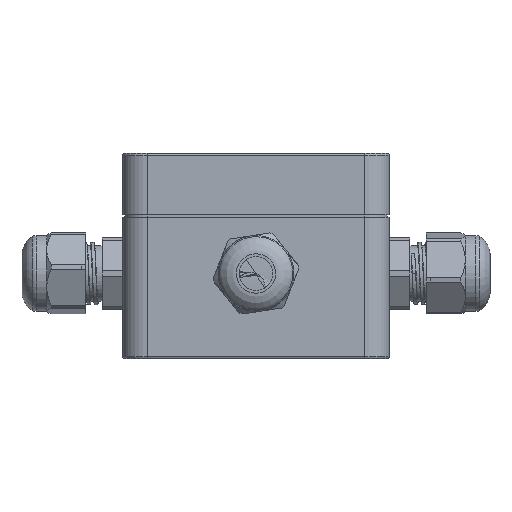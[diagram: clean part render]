
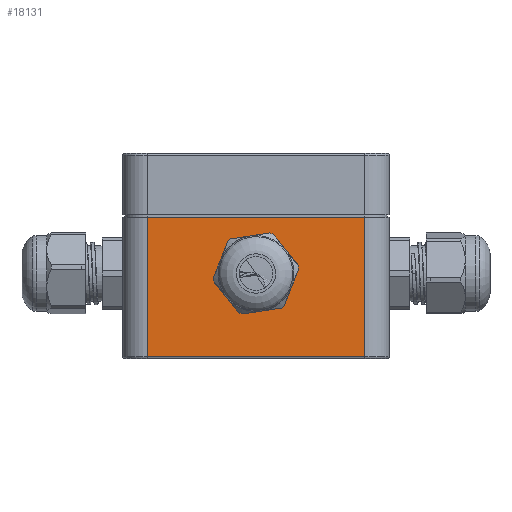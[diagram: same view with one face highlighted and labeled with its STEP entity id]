
A CAD part, left-side view. The second image highlights one B-rep face of the part: STEP entity #18131.
In plain terms, the highlighted planar face has unit normal (-1, 0, 0) by its records, which use the part's own axes.
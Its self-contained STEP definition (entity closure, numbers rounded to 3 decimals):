
#18131=ADVANCED_FACE('',(#43450,#43452),#43454,.T.);
#43450=FACE_BOUND('',#43451,.T.);
#43451=EDGE_LOOP('',(#138775,#138776,#138777,#138778));
#43452=FACE_BOUND('',#43453,.T.);
#43453=EDGE_LOOP('',(#138779,#138780,#138781,#138782,#138783,#138784,#138785,#138786,
#138787,#138788,#138789,#138790));
#43454=PLANE('',#43455);
#43455=AXIS2_PLACEMENT_3D('',#43456,#43457,#43458);
#43456=CARTESIAN_POINT('',(-57.5,32.5,0.));
#43457=DIRECTION('',(-1.,0.,0.));
#43458=DIRECTION('',(0.,-1.,0.));
#138775=ORIENTED_EDGE('',*,*,#179340,.T.);
#138776=ORIENTED_EDGE('',*,*,#180305,.T.);
#138777=ORIENTED_EDGE('',*,*,#180306,.T.);
#138778=ORIENTED_EDGE('',*,*,#180307,.F.);
#138779=ORIENTED_EDGE('',*,*,#180308,.F.);
#138780=ORIENTED_EDGE('',*,*,#180309,.F.);
#138781=ORIENTED_EDGE('',*,*,#180310,.F.);
#138782=ORIENTED_EDGE('',*,*,#180311,.F.);
#138783=ORIENTED_EDGE('',*,*,#180312,.F.);
#138784=ORIENTED_EDGE('',*,*,#180313,.F.);
#138785=ORIENTED_EDGE('',*,*,#180314,.F.);
#138786=ORIENTED_EDGE('',*,*,#180315,.F.);
#138787=ORIENTED_EDGE('',*,*,#180316,.F.);
#138788=ORIENTED_EDGE('',*,*,#180317,.F.);
#138789=ORIENTED_EDGE('',*,*,#180318,.F.);
#138790=ORIENTED_EDGE('',*,*,#180319,.F.);
#179340=EDGE_CURVE('',#192823,#192820,#192824,.T.);
#180305=EDGE_CURVE('',#192820,#194286,#194288,.T.);
#180306=EDGE_CURVE('',#194286,#194289,#194290,.T.);
#180307=EDGE_CURVE('',#192823,#194289,#194291,.T.);
#180308=EDGE_CURVE('',#194292,#194293,#194294,.F.);
#180309=EDGE_CURVE('',#194295,#194292,#194296,.F.);
#180310=EDGE_CURVE('',#194297,#194295,#194298,.F.);
#180311=EDGE_CURVE('',#194299,#194297,#194300,.F.);
#180312=EDGE_CURVE('',#194301,#194299,#194302,.F.);
#180313=EDGE_CURVE('',#194303,#194301,#194304,.F.);
#180314=EDGE_CURVE('',#194305,#194303,#194306,.F.);
#180315=EDGE_CURVE('',#194307,#194305,#194308,.F.);
#180316=EDGE_CURVE('',#194309,#194307,#194310,.F.);
#180317=EDGE_CURVE('',#194311,#194309,#194312,.F.);
#180318=EDGE_CURVE('',#194313,#194311,#194314,.F.);
#180319=EDGE_CURVE('',#194293,#194313,#194315,.F.);
#192820=VERTEX_POINT('',#220316);
#192823=VERTEX_POINT('',#220325);
#192824=LINE('',#220326,#220327);
#194286=VERTEX_POINT('',#224072);
#194288=LINE('',#224077,#224078);
#194289=VERTEX_POINT('',#224080);
#194290=LINE('',#224081,#224082);
#194291=LINE('',#224084,#224085);
#194292=VERTEX_POINT('',#224087);
#194293=VERTEX_POINT('',#224088);
#194294=LINE('',#224089,#224090);
#194295=VERTEX_POINT('',#224092);
#194296=LINE('',#224093,#224094);
#194297=VERTEX_POINT('',#224096);
#194298=LINE('',#224097,#224098);
#194299=VERTEX_POINT('',#224100);
#194300=LINE('',#224101,#224102);
#194301=VERTEX_POINT('',#224104);
#194302=LINE('',#224105,#224106);
#194303=VERTEX_POINT('',#224108);
#194304=LINE('',#224109,#224110);
#194305=VERTEX_POINT('',#224112);
#194306=LINE('',#224113,#224114);
#194307=VERTEX_POINT('',#224116);
#194308=LINE('',#224117,#224118);
#194309=VERTEX_POINT('',#224120);
#194310=LINE('',#224121,#224122);
#194311=VERTEX_POINT('',#224124);
#194312=LINE('',#224125,#224126);
#194313=VERTEX_POINT('',#224128);
#194314=LINE('',#224129,#224130);
#194315=LINE('',#224132,#224133);
#220316=CARTESIAN_POINT('',(-57.5,-26.5,0.5));
#220325=CARTESIAN_POINT('',(-57.5,26.5,0.5));
#220326=CARTESIAN_POINT('',(-57.5,26.5,0.5));
#220327=VECTOR('',#220328,1.);
#220328=DIRECTION('',(0.,-1.,0.));
#224072=CARTESIAN_POINT('',(-57.5,-26.5,34.5));
#224077=CARTESIAN_POINT('',(-57.5,-26.5,0.5));
#224078=VECTOR('',#224079,1.);
#224079=DIRECTION('',(0.,0.,1.));
#224080=CARTESIAN_POINT('',(-57.5,26.5,34.5));
#224081=CARTESIAN_POINT('',(-57.5,-26.5,34.5));
#224082=VECTOR('',#224083,1.);
#224083=DIRECTION('',(0.,1.,0.));
#224084=CARTESIAN_POINT('',(-57.5,26.5,0.5));
#224085=VECTOR('',#224086,1.);
#224086=DIRECTION('',(0.,0.,1.));
#224087=CARTESIAN_POINT('',(-57.5,-9.699,20.05));
#224088=CARTESIAN_POINT('',(-57.5,-9.699,21.45));
#224089=CARTESIAN_POINT('',(-57.5,-9.699,21.45));
#224090=VECTOR('',#224091,1.);
#224091=DIRECTION('',(0.,0.,-1.));
#224092=CARTESIAN_POINT('',(-57.5,-5.456,12.7));
#224093=CARTESIAN_POINT('',(-57.5,-9.699,20.05));
#224094=VECTOR('',#224095,1.);
#224095=DIRECTION('',(0.,0.5,-0.866));
#224096=CARTESIAN_POINT('',(-57.5,-4.244,12.));
#224097=CARTESIAN_POINT('',(-57.5,-5.456,12.7));
#224098=VECTOR('',#224099,1.);
#224099=DIRECTION('',(0.,0.866,-0.5));
#224100=CARTESIAN_POINT('',(-57.5,4.244,12.));
#224101=CARTESIAN_POINT('',(-57.5,-4.244,12.));
#224102=VECTOR('',#224103,1.);
#224103=DIRECTION('',(0.,1.,0.));
#224104=CARTESIAN_POINT('',(-57.5,5.456,12.7));
#224105=CARTESIAN_POINT('',(-57.5,4.244,12.));
#224106=VECTOR('',#224107,1.);
#224107=DIRECTION('',(0.,0.866,0.5));
#224108=CARTESIAN_POINT('',(-57.5,9.699,20.05));
#224109=CARTESIAN_POINT('',(-57.5,5.456,12.7));
#224110=VECTOR('',#224111,1.);
#224111=DIRECTION('',(0.,0.5,0.866));
#224112=CARTESIAN_POINT('',(-57.5,9.699,21.45));
#224113=CARTESIAN_POINT('',(-57.5,9.699,20.05));
#224114=VECTOR('',#224115,1.);
#224115=DIRECTION('',(0.,0.,1.));
#224116=CARTESIAN_POINT('',(-57.5,5.456,28.8));
#224117=CARTESIAN_POINT('',(-57.5,9.699,21.45));
#224118=VECTOR('',#224119,1.);
#224119=DIRECTION('',(0.,-0.5,0.866));
#224120=CARTESIAN_POINT('',(-57.5,4.244,29.5));
#224121=CARTESIAN_POINT('',(-57.5,5.456,28.8));
#224122=VECTOR('',#224123,1.);
#224123=DIRECTION('',(0.,-0.866,0.5));
#224124=CARTESIAN_POINT('',(-57.5,-4.244,29.5));
#224125=CARTESIAN_POINT('',(-57.5,4.244,29.5));
#224126=VECTOR('',#224127,1.);
#224127=DIRECTION('',(0.,-1.,0.));
#224128=CARTESIAN_POINT('',(-57.5,-5.456,28.8));
#224129=CARTESIAN_POINT('',(-57.5,-4.244,29.5));
#224130=VECTOR('',#224131,1.);
#224131=DIRECTION('',(0.,-0.866,-0.5));
#224132=CARTESIAN_POINT('',(-57.5,-5.456,28.8));
#224133=VECTOR('',#224134,1.);
#224134=DIRECTION('',(0.,-0.5,-0.866));
